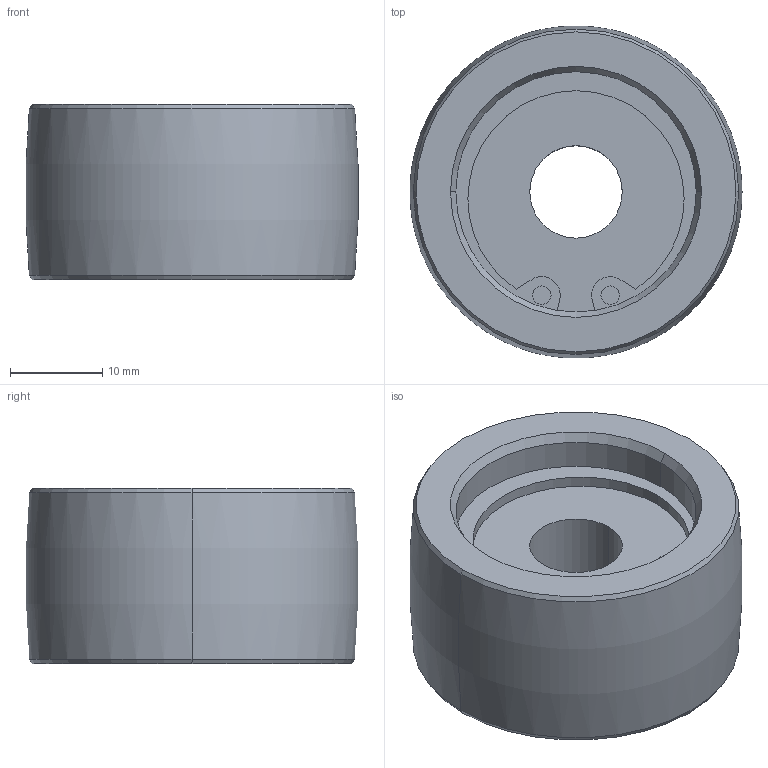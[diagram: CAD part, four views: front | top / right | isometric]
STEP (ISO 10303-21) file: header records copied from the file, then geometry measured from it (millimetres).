
FILE_DESCRIPTION (( 'STEP AP203' ), '1' );
FILE_NAME ('grl50s-c.STEP', '2021-10-26T00:49:08', ( '' ), ( '' ), 'SwSTEP 2.0', 'SolidWorks 2020', '' );
FILE_SCHEMA (( 'CONFIG_CONTROL_DESIGN' ));
Length unit declared in the file: millimetre
Products named in the file (1): grl50s-c
Bounding box: 35.91 x 35.9 x 19 mm (x, y, z)
Volume: 13464.4 mm3; surface area: 5037.2 mm2
Topology: 1 solids, 1 shells, 38 faces, 87 edges, 56 vertices
Faces by surface type: cylinder 18, plane 12, cone 6, torus 2
Entity records: 1174 total; most frequent: DIRECTION 215, CARTESIAN_POINT 182, ORIENTED_EDGE 174, AXIS2_PLACEMENT_3D 89, EDGE_CURVE 87, VERTEX_POINT 56, CIRCLE 50, EDGE_LOOP 45
